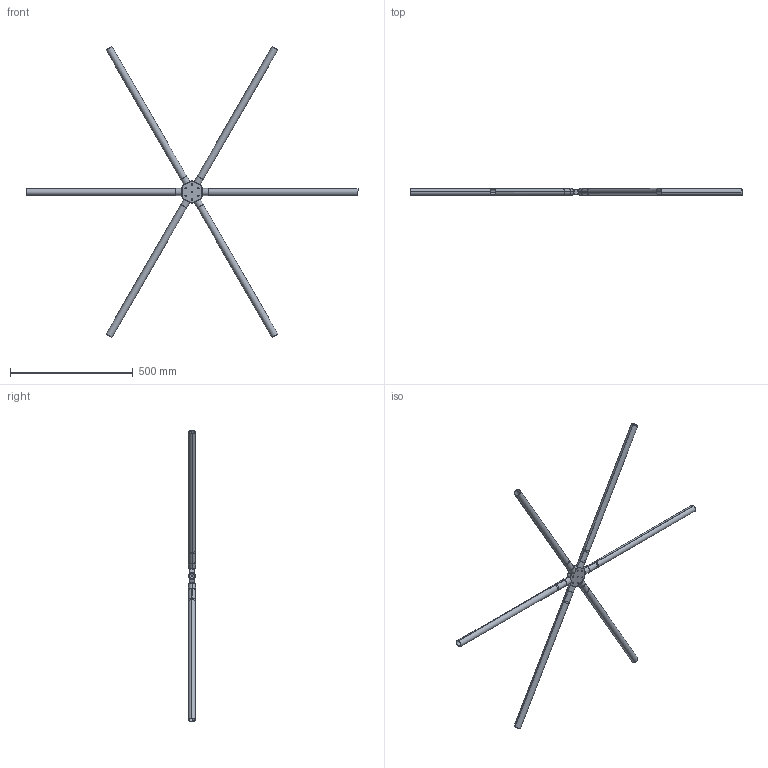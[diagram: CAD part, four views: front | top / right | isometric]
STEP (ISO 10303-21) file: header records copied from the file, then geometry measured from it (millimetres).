
FILE_DESCRIPTION (( 'STEP AP214' ), '1' );
FILE_NAME ('Six Sided Connector with Six Threaded End Connectors Connection.STEP', '2013-08-19T16:11:32', ( 'ydmin' ), ( 'Microsoft' ), 'SwSTEP 2.0', 'SolidWorks 2013', '' );
FILE_SCHEMA (( 'AUTOMOTIVE_DESIGN' ));
Length unit declared in the file: inch
Products named in the file (4): Six Sided Connector with Six Threaded End Connectors Connection; DRP-002-0507-00; 6.000 Inch Tube; DRP-002-0518-00
Assembly tree (13 placements, depth 2):
  Six Sided Connector with Six Threaded End Connectors Connection
    DRP-002-0507-00
    6.000 Inch Tube  x6
    DRP-002-0518-00  x6
Bounding box: 1352.5 x 28.57 x 1185.01 mm (x, y, z)
Volume: 569843.9 mm3; surface area: 706628 mm2
Topology: 25 solids, 25 shells, 796 faces, 2040 edges, 1288 vertices
Faces by surface type: cylinder 452, plane 146, cone 120, bspline 66, torus 12
Entity records: 15543 total; most frequent: CARTESIAN_POINT 9501, ORIENTED_EDGE 962, DIRECTION 862, EDGE_CURVE 481, AXIS2_PLACEMENT_3D 326, VERTEX_POINT 303, EDGE_LOOP 222, VECTOR 210
